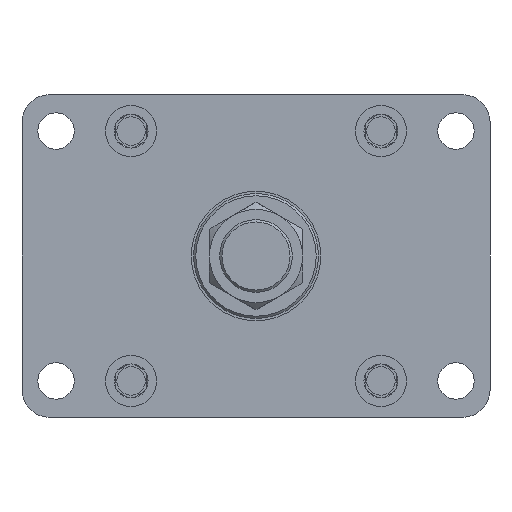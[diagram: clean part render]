
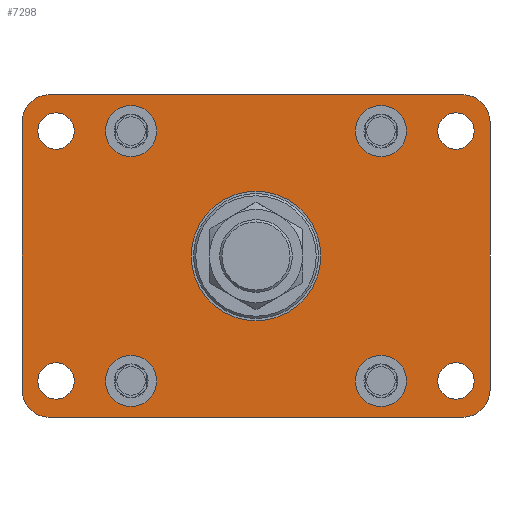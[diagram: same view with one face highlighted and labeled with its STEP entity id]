
A CAD part, front view. The second image highlights one B-rep face of the part: STEP entity #7298.
In plain terms, the highlighted planar face has unit normal (0, -1, 0).
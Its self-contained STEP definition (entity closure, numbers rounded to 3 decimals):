
#457=CIRCLE('',#7869,28.5);
#458=CIRCLE('',#7870,11.25);
#459=CIRCLE('',#7871,11.25);
#460=CIRCLE('',#7872,11.25);
#461=CIRCLE('',#7873,11.25);
#462=CIRCLE('',#7874,8.);
#463=CIRCLE('',#7875,8.);
#464=CIRCLE('',#7876,8.);
#465=CIRCLE('',#7877,8.);
#466=CIRCLE('',#7878,12.);
#467=CIRCLE('',#7879,12.);
#468=CIRCLE('',#7880,12.);
#469=CIRCLE('',#7881,12.);
#1686=ORIENTED_EDGE('',*,*,#2600,.T.);
#1687=ORIENTED_EDGE('',*,*,#2601,.T.);
#1688=ORIENTED_EDGE('',*,*,#2602,.T.);
#1689=ORIENTED_EDGE('',*,*,#2603,.T.);
#1690=ORIENTED_EDGE('',*,*,#2604,.T.);
#1691=ORIENTED_EDGE('',*,*,#2605,.T.);
#1692=ORIENTED_EDGE('',*,*,#2606,.T.);
#1693=ORIENTED_EDGE('',*,*,#2607,.T.);
#1694=ORIENTED_EDGE('',*,*,#2608,.T.);
#1695=ORIENTED_EDGE('',*,*,#2598,.T.);
#1696=ORIENTED_EDGE('',*,*,#2609,.T.);
#1697=ORIENTED_EDGE('',*,*,#2584,.T.);
#1698=ORIENTED_EDGE('',*,*,#2610,.T.);
#1699=ORIENTED_EDGE('',*,*,#2588,.T.);
#1700=ORIENTED_EDGE('',*,*,#2611,.T.);
#1701=ORIENTED_EDGE('',*,*,#2592,.T.);
#1702=ORIENTED_EDGE('',*,*,#2612,.T.);
#2584=EDGE_CURVE('',#3148,#3149,#3620,.T.);
#2588=EDGE_CURVE('',#3152,#3153,#3624,.T.);
#2592=EDGE_CURVE('',#3156,#3157,#3628,.T.);
#2598=EDGE_CURVE('',#3163,#3162,#3634,.T.);
#2600=EDGE_CURVE('',#3164,#3164,#457,.F.);
#2601=EDGE_CURVE('',#3165,#3165,#458,.F.);
#2602=EDGE_CURVE('',#3166,#3166,#459,.F.);
#2603=EDGE_CURVE('',#3167,#3167,#460,.F.);
#2604=EDGE_CURVE('',#3168,#3168,#461,.F.);
#2605=EDGE_CURVE('',#3169,#3169,#462,.F.);
#2606=EDGE_CURVE('',#3170,#3170,#463,.F.);
#2607=EDGE_CURVE('',#3171,#3171,#464,.F.);
#2608=EDGE_CURVE('',#3172,#3172,#465,.F.);
#2609=EDGE_CURVE('',#3162,#3148,#466,.T.);
#2610=EDGE_CURVE('',#3149,#3152,#467,.T.);
#2611=EDGE_CURVE('',#3153,#3156,#468,.T.);
#2612=EDGE_CURVE('',#3157,#3163,#469,.T.);
#3148=VERTEX_POINT('',#10887);
#3149=VERTEX_POINT('',#10888);
#3152=VERTEX_POINT('',#10896);
#3153=VERTEX_POINT('',#10897);
#3156=VERTEX_POINT('',#10905);
#3157=VERTEX_POINT('',#10906);
#3162=VERTEX_POINT('',#10917);
#3163=VERTEX_POINT('',#10919);
#3164=VERTEX_POINT('',#10923);
#3165=VERTEX_POINT('',#10925);
#3166=VERTEX_POINT('',#10927);
#3167=VERTEX_POINT('',#10929);
#3168=VERTEX_POINT('',#10931);
#3169=VERTEX_POINT('',#10933);
#3170=VERTEX_POINT('',#10935);
#3171=VERTEX_POINT('',#10937);
#3172=VERTEX_POINT('',#10939);
#3620=LINE('',#10886,#4028);
#3624=LINE('',#10895,#4032);
#3628=LINE('',#10904,#4036);
#3634=LINE('',#10918,#4042);
#4028=VECTOR('',#9276,1000.);
#4032=VECTOR('',#9282,1000.);
#4036=VECTOR('',#9288,1000.);
#4042=VECTOR('',#9296,1000.);
#4380=EDGE_LOOP('',(#1686));
#4381=EDGE_LOOP('',(#1687));
#4382=EDGE_LOOP('',(#1688));
#4383=EDGE_LOOP('',(#1689));
#4384=EDGE_LOOP('',(#1690));
#4385=EDGE_LOOP('',(#1691));
#4386=EDGE_LOOP('',(#1692));
#4387=EDGE_LOOP('',(#1693));
#4388=EDGE_LOOP('',(#1694));
#4389=EDGE_LOOP('',(#1695,#1696,#1697,#1698,#1699,#1700,#1701,#1702));
#4824=FACE_BOUND('',#4380,.T.);
#4825=FACE_BOUND('',#4381,.T.);
#4826=FACE_BOUND('',#4382,.T.);
#4827=FACE_BOUND('',#4383,.T.);
#4828=FACE_BOUND('',#4384,.T.);
#4829=FACE_BOUND('',#4385,.T.);
#4830=FACE_BOUND('',#4386,.T.);
#4831=FACE_BOUND('',#4387,.T.);
#4832=FACE_BOUND('',#4388,.T.);
#4833=FACE_BOUND('',#4389,.T.);
#5097=PLANE('',#7868);
#7298=ADVANCED_FACE('',(#4824,#4825,#4826,#4827,#4828,#4829,#4830,#4831,
#4832,#4833),#5097,.T.);
#7868=AXIS2_PLACEMENT_3D('',#10921,#9298,#9299);
#7869=AXIS2_PLACEMENT_3D('',#10922,#9300,#9301);
#7870=AXIS2_PLACEMENT_3D('',#10924,#9302,#9303);
#7871=AXIS2_PLACEMENT_3D('',#10926,#9304,#9305);
#7872=AXIS2_PLACEMENT_3D('',#10928,#9306,#9307);
#7873=AXIS2_PLACEMENT_3D('',#10930,#9308,#9309);
#7874=AXIS2_PLACEMENT_3D('',#10932,#9310,#9311);
#7875=AXIS2_PLACEMENT_3D('',#10934,#9312,#9313);
#7876=AXIS2_PLACEMENT_3D('',#10936,#9314,#9315);
#7877=AXIS2_PLACEMENT_3D('',#10938,#9316,#9317);
#7878=AXIS2_PLACEMENT_3D('',#10940,#9318,#9319);
#7879=AXIS2_PLACEMENT_3D('',#10941,#9320,#9321);
#7880=AXIS2_PLACEMENT_3D('',#10942,#9322,#9323);
#7881=AXIS2_PLACEMENT_3D('',#10943,#9324,#9325);
#9276=DIRECTION('',(0.,0.,-1.));
#9282=DIRECTION('',(1.,0.,0.));
#9288=DIRECTION('',(0.,0.,1.));
#9296=DIRECTION('',(-1.,0.,0.));
#9298=DIRECTION('',(0.,-1.,0.));
#9299=DIRECTION('',(0.,0.,-1.));
#9300=DIRECTION('',(0.,-1.,0.));
#9301=DIRECTION('',(0.,0.,-1.));
#9302=DIRECTION('',(0.,-1.,0.));
#9303=DIRECTION('',(0.,0.,-1.));
#9304=DIRECTION('',(0.,-1.,0.));
#9305=DIRECTION('',(0.,0.,-1.));
#9306=DIRECTION('',(0.,-1.,0.));
#9307=DIRECTION('',(0.,0.,-1.));
#9308=DIRECTION('',(0.,-1.,0.));
#9309=DIRECTION('',(0.,0.,-1.));
#9310=DIRECTION('',(0.,-1.,0.));
#9311=DIRECTION('',(0.,0.,-1.));
#9312=DIRECTION('',(0.,-1.,0.));
#9313=DIRECTION('',(0.,0.,-1.));
#9314=DIRECTION('',(0.,-1.,0.));
#9315=DIRECTION('',(0.,0.,-1.));
#9316=DIRECTION('',(0.,-1.,0.));
#9317=DIRECTION('',(0.,0.,-1.));
#9318=DIRECTION('',(0.,-1.,0.));
#9319=DIRECTION('',(0.,0.,-1.));
#9320=DIRECTION('',(0.,-1.,0.));
#9321=DIRECTION('',(0.,0.,-1.));
#9322=DIRECTION('',(0.,-1.,0.));
#9323=DIRECTION('',(0.,0.,-1.));
#9324=DIRECTION('',(0.,-1.,0.));
#9325=DIRECTION('',(0.,0.,-1.));
#10886=CARTESIAN_POINT('',(-103.,-20.,28.));
#10887=CARTESIAN_POINT('',(-103.,-20.,59.));
#10888=CARTESIAN_POINT('',(-103.,-20.,-59.));
#10895=CARTESIAN_POINT('',(-43.,-20.,-71.));
#10896=CARTESIAN_POINT('',(-91.,-20.,-71.));
#10897=CARTESIAN_POINT('',(91.,-20.,-71.));
#10904=CARTESIAN_POINT('',(103.,-20.,-28.));
#10905=CARTESIAN_POINT('',(103.,-20.,-59.));
#10906=CARTESIAN_POINT('',(103.,-20.,59.));
#10917=CARTESIAN_POINT('',(-91.,-20.,71.));
#10918=CARTESIAN_POINT('',(43.,-20.,71.));
#10919=CARTESIAN_POINT('',(91.,-20.,71.));
#10921=CARTESIAN_POINT('',(0.,-20.,0.));
#10922=CARTESIAN_POINT('',(0.,-20.,0.));
#10923=CARTESIAN_POINT('',(0.,-20.,-28.5));
#10924=CARTESIAN_POINT('',(-55.,-20.,-55.));
#10925=CARTESIAN_POINT('',(-55.,-20.,-66.25));
#10926=CARTESIAN_POINT('',(55.,-20.,-55.));
#10927=CARTESIAN_POINT('',(55.,-20.,-66.25));
#10928=CARTESIAN_POINT('',(55.,-20.,55.));
#10929=CARTESIAN_POINT('',(55.,-20.,43.75));
#10930=CARTESIAN_POINT('',(-55.,-20.,55.));
#10931=CARTESIAN_POINT('',(-55.,-20.,43.75));
#10932=CARTESIAN_POINT('',(88.,-20.,-55.));
#10933=CARTESIAN_POINT('',(88.,-20.,-63.));
#10934=CARTESIAN_POINT('',(-88.,-20.,-55.));
#10935=CARTESIAN_POINT('',(-88.,-20.,-63.));
#10936=CARTESIAN_POINT('',(-88.,-20.,55.));
#10937=CARTESIAN_POINT('',(-88.,-20.,47.));
#10938=CARTESIAN_POINT('',(88.,-20.,55.));
#10939=CARTESIAN_POINT('',(88.,-20.,47.));
#10940=CARTESIAN_POINT('',(-91.,-20.,59.));
#10941=CARTESIAN_POINT('',(-91.,-20.,-59.));
#10942=CARTESIAN_POINT('',(91.,-20.,-59.));
#10943=CARTESIAN_POINT('',(91.,-20.,59.));
